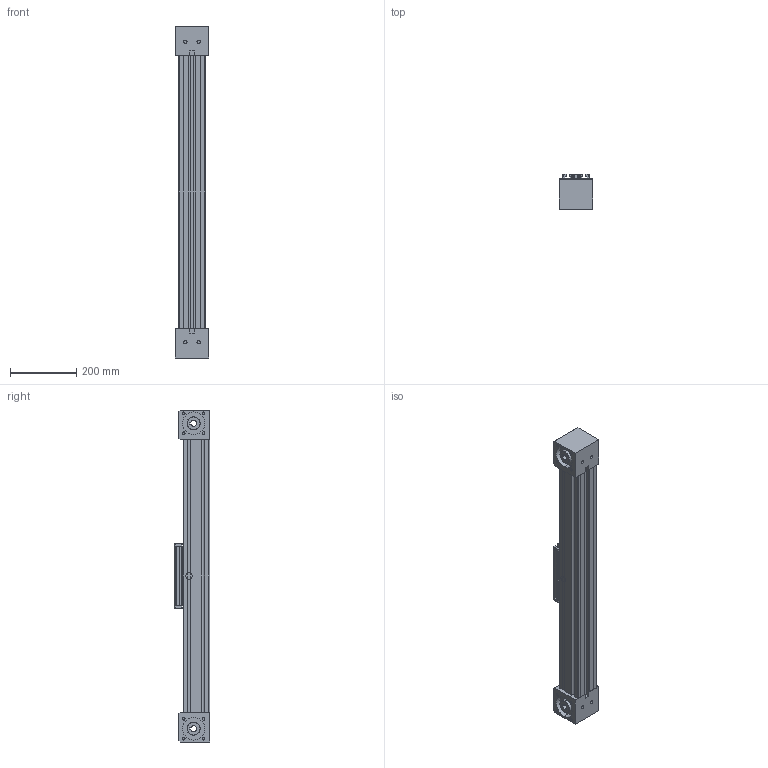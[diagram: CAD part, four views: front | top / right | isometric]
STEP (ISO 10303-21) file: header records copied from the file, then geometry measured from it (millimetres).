
FILE_DESCRIPTION (( 'STEP AP214' ), '1' );
FILE_NAME ('QLZ-80-Konfig.STEP', '2016-01-14T12:08:02', ( 'admin' ), ( '' ), 'SwSTEP 2.0', 'SolidWorks 2015', '' );
FILE_SCHEMA (( 'AUTOMOTIVE_DESIGN' ));
Length unit declared in the file: millimetre
Products named in the file (5): Bahr-QLZ-QLZ-80  1  0 0 0  0 4  1  890_QLZ Extrusion 80^QLZ80 - Konfig; Führungsschlitten QLZ80 - Konfig^QLZ80 - Konfig_S0; Zahnriemenumlenkung Q_Z80 - Konfig^QLZ80 - Konfig_K links - N rechts; Zahnriemenumlenkung Q_Z80 - Konfig^QLZ80 - Konfig_K rechts - N links; QLZ-80-Konfig
Assembly tree (4 placements, depth 2):
  QLZ-80-Konfig
    Zahnriemenumlenkung Q_Z80 - Konfig^QLZ80 - Konfig_K rechts - N links
    Zahnriemenumlenkung Q_Z80 - Konfig^QLZ80 - Konfig_K links - N rechts
    Führungsschlitten QLZ80 - Konfig^QLZ80 - Konfig_S0
    Bahr-QLZ-QLZ-80  1  0 0 0  0 4  1  890_QLZ Extrusion 80^QLZ80 - Konfig
Bounding box: 100 x 106 x 1000 mm (x, y, z)
Volume: 6596245.7 mm3; surface area: 570446 mm2
Topology: 8 solids, 8 shells, 377 faces, 955 edges, 630 vertices
Faces by surface type: plane 230, cylinder 135, torus 8, cone 4
Entity records: 11692 total; most frequent: DIRECTION 2017, CARTESIAN_POINT 2005, ORIENTED_EDGE 1910, EDGE_CURVE 955, AXIS2_PLACEMENT_3D 682, LINE 653, VECTOR 653, VERTEX_POINT 630
